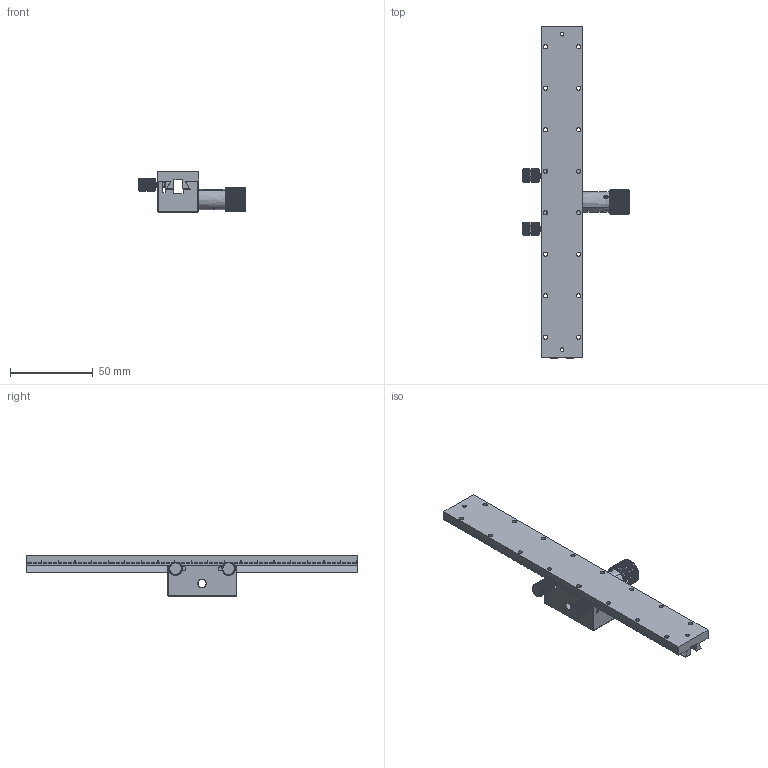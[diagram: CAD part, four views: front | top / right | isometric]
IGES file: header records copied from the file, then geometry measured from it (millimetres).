
Start section: SolidWorks IGES file using analytic representation for surfaces
Bounding box: 64.21 x 200 x 25 mm (x, y, z)
Surface area: 30849.8 mm2 (no closed solid volume)
Topology: 0 solids, 0 shells, 1699 faces, 12878 edges, 12858 vertices
Faces by surface type: bspline 1241, revolution 458
